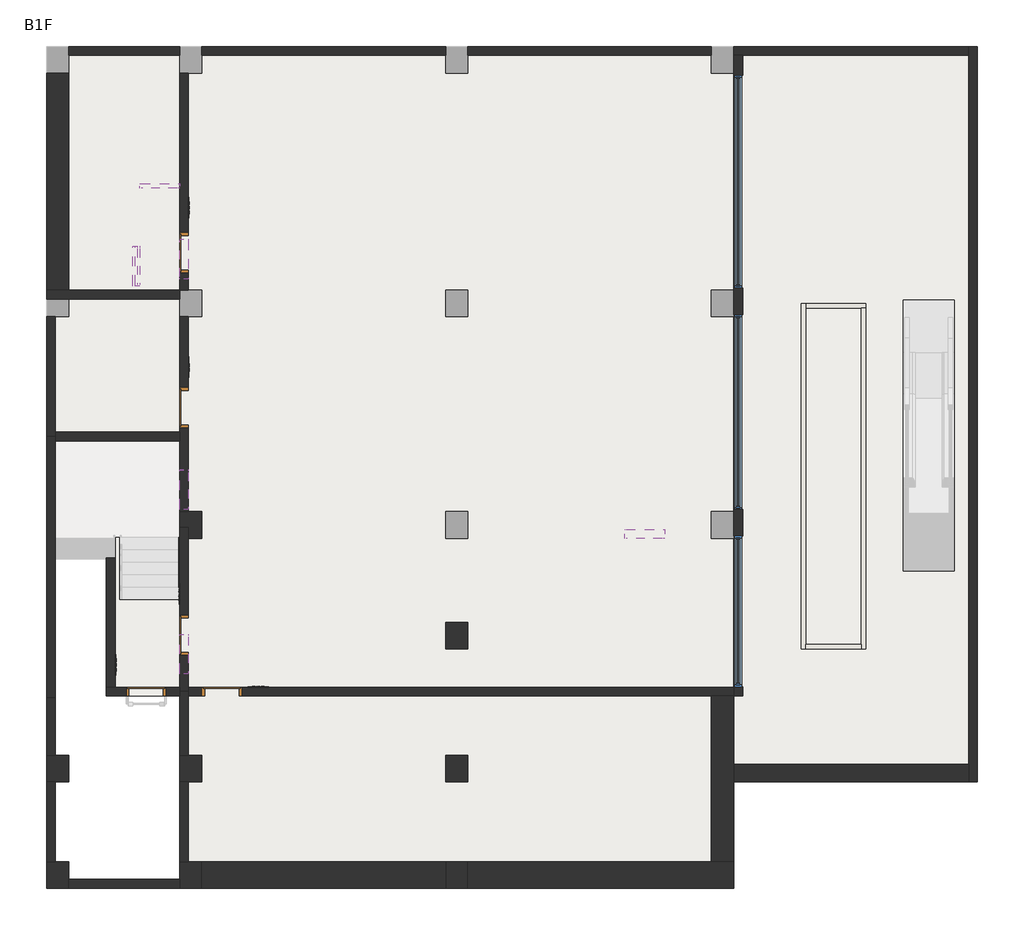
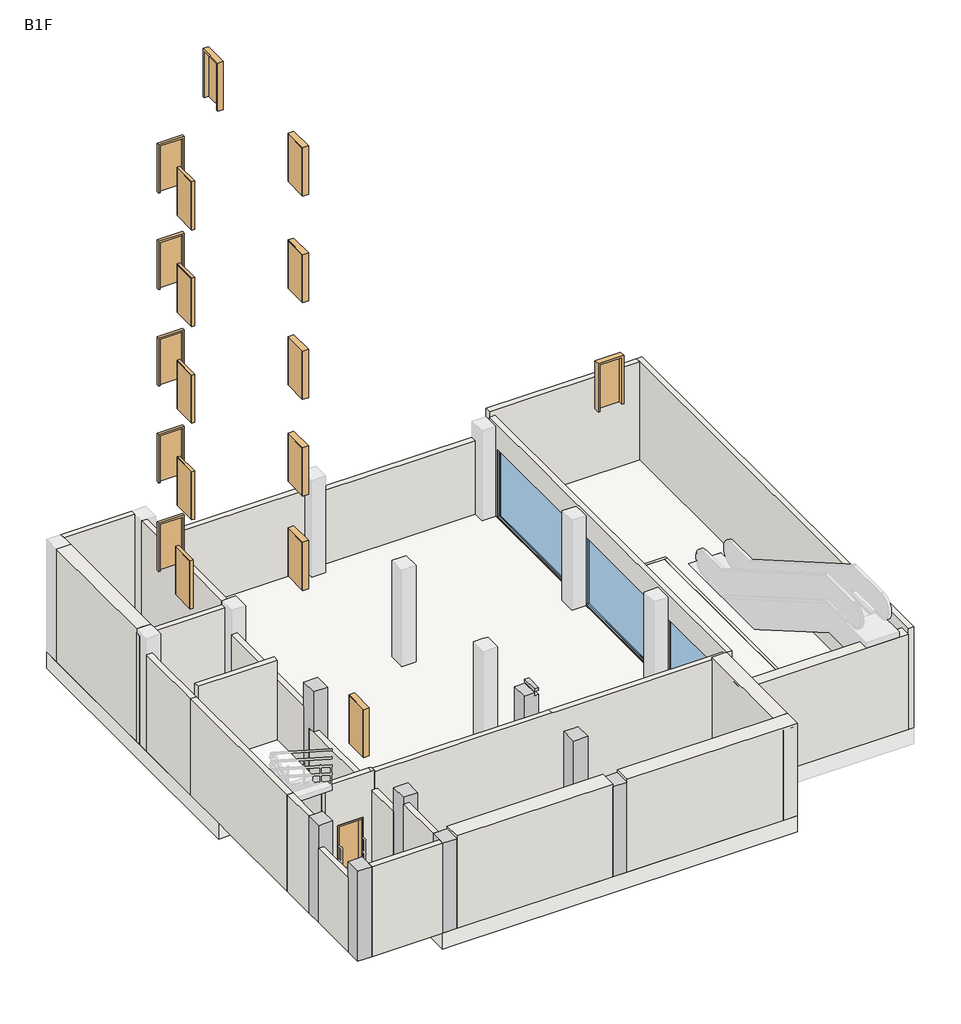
# One storey, part 1 of 2: 36 walls, 23 doors, 9 columns, 5 slabs, 3 windows.
"""IFC4 building model written with IfcOpenShell, lengths in millimetres."""

from ifc_helpers import new_model, si_unit, frame, origin, place, context, project, spatial, polyline, outline, extrude, faceted_brep, transform, mapped, element, save
from components import door_998bb8c2, door_d16c5775, door_dfe2024e, door_f2395513, window_0159f90e, window_ffe5d9b1, window_331565a2

model = new_model("IFC4")

# Units and contexts
model_context = context("Model", 3, world=origin())
ifc_project = project(units=[si_unit("LENGTHUNIT", "METRE", prefix="MILLI")], contexts=[model_context])

# Site, building, storey
site = spatial("IfcSite", under=ifc_project)
building = spatial("IfcBuilding", under=site)
storey = spatial("IfcBuildingStorey", under=building, Name="B1F", Elevation=-3600.0)

# Columns
placement = place(None, origin())
element("IfcColumn", 1, ObjectType="CL100-구조 기둥 : CL100-구조 기둥_500x600", at=placement, inside=storey, context=model_context, shape_type="Brep", body=[
    faceted_brep([(2750.0, -300.0, -3600.0), (2750.0, 300.0, -3600.0), (2950.0, 300.0, -3600.0), (3250.0, 300.0, -3600.0), (3250.0, -300.0, -3600.0), (2950.0, -300.0, -3600.0), (2750.0, -300.0, -950.0), (2750.0, -300.0, -250.0), (2750.0, -300.0, -50.0), (2750.0, -300.0, 0.0), (2750.0, 300.0, 0.0), (2750.0, 300.0, -900.0), (2950.0, 300.0, 0.0), (3250.0, 300.0, 0.0), (3250.0, 300.0, -150.0), (3250.0, -150.0, 0.0), (3250.0, -300.0, 0.0), (3250.0, -300.0, -900.0)], [[[0, 1, 2, 3, 4, 5]], [[1, 0, 6, 7, 8, 9, 10, 11]], [[3, 2, 1, 11, 10, 12, 13, 14]], [[4, 3, 14, 13, 15, 16, 17]], [[0, 5, 4, 17, 16, 9, 8, 7, 6]], [[10, 9, 16, 15, 13, 12]]]),
])
element("IfcColumn", 2, ObjectType="CL100-구조 기둥 : CL100-구조 기둥_500x600", at=placement, inside=storey, context=model_context, shape_type="Brep", body=[
    faceted_brep([(8750.0, -300.0, -3600.0), (8750.0, 300.0, -3600.0), (9250.0, 300.0, -3600.0), (9250.0, -300.0, -3600.0), (8750.0, -300.0, 0.0), (8750.0, -150.0, 0.0), (8750.0, 300.0, 0.0), (8750.0, 300.0, -150.0), (9100.0, 300.0, 0.0), (9250.0, 300.0, 0.0), (9250.0, -300.0, 0.0)], [[[0, 1, 2, 3]], [[1, 0, 4, 5, 6, 7]], [[2, 1, 7, 6, 8, 9]], [[3, 2, 9, 10]], [[0, 3, 10, 4]], [[10, 9, 8, 6, 5, 4]]]),
])
element("IfcColumn", 3, ObjectType="CL100-구조 기둥 : CL100-구조 기둥_500x600", at=placement, inside=storey, context=model_context, shape_type="Brep", body=[
    faceted_brep([(2750.0, 5800.0, -3600.0), (2950.0, 5800.0, -3600.0), (3250.0, 5800.0, -3600.0), (3250.0, 5200.0, -3600.0), (2950.0, 5200.0, -3600.0), (2950.0, 5450.0, -3600.0), (2750.0, 5450.0, -3600.0), (2750.0, 5200.0, 600.0), (2750.0, 5800.0, 600.0), (2750.0, 5800.0, -300.0), (2750.0, 5450.0, -900.0), (2750.0, 5200.0, -900.0), (2750.0, 5200.0, 0.0), (3150.0, 5800.0, 600.0), (3250.0, 5800.0, 600.0), (3250.0, 5800.0, 0.0), (3250.0, 5800.0, -150.0), (3250.0, 5200.0, 600.0), (3250.0, 5200.0, 0.0), (3250.0, 5200.0, -150.0), (2950.0, 5200.0, -900.0), (2950.0, 5450.0, -900.0)], [[[0, 1, 2, 3, 4, 5, 6]], [[7, 8, 9, 0, 6, 10, 11, 12]], [[2, 1, 0, 9, 8, 13, 14, 15, 16]], [[3, 2, 16, 15, 14, 17, 18, 19]], [[17, 7, 12, 11, 20, 4, 3, 19, 18]], [[8, 7, 17, 14, 13]], [[21, 5, 4, 20]], [[10, 21, 20, 11]], [[5, 21, 10, 6]]]),
])
element("IfcColumn", 4, ObjectType="CL100-구조 기둥 : CL100-구조 기둥_500x600", at=placement, inside=storey, context=model_context, shape_type="Brep", body=[
    faceted_brep([(-250.0, -2700.0, -3600.0), (-250.0, -2100.0, -3600.0), (-50.0, -2100.0, -3600.0), (250.0, -2100.0, -3600.0), (250.0, -2500.0, -3600.0), (250.0, -2700.0, -3600.0), (-250.0, -2700.0, -250.0), (-250.0, -2100.0, -250.0), (-250.0, -2100.0, -850.0), (50.0, -2100.0, -250.0), (250.0, -2100.0, -250.0), (250.0, -2500.0, -250.0), (250.0, -2700.0, -250.0)], [[[0, 1, 2, 3, 4, 5]], [[6, 7, 8, 1, 0]], [[7, 9, 10, 3, 2, 1, 8]], [[10, 11, 12, 5, 4, 3]], [[12, 6, 0, 5]], [[6, 12, 11, 10, 9, 7]]]),
])
element("IfcColumn", 5, ObjectType="CL100-구조 기둥 : CL100-구조 기둥_500x600", at=placement, inside=storey, context=model_context, shape_type="Brep", body=[
    faceted_brep([(2750.0, -2700.0, -3600.0), (2750.0, -2500.0, -3600.0), (2750.0, -2100.0, -3600.0), (2950.0, -2100.0, -3600.0), (3250.0, -2100.0, -3600.0), (3250.0, -2700.0, -3600.0), (2750.0, -2700.0, -250.0), (2750.0, -2500.0, -250.0), (2750.0, -2100.0, -250.0), (2950.0, -2100.0, -250.0), (3150.0, -2100.0, -250.0), (3250.0, -2100.0, -250.0), (3250.0, -2700.0, -250.0)], [[[0, 1, 2, 3, 4, 5]], [[6, 7, 8, 2, 1, 0]], [[8, 9, 10, 11, 4, 3, 2]], [[11, 12, 5, 4]], [[12, 6, 0, 5]], [[6, 12, 11, 10, 9, 8, 7]]]),
])
element("IfcColumn", 6, ObjectType="CL100-구조 기둥 : CL100-구조 기둥_500x600", at=placement, inside=storey, context=model_context, shape_type="Brep", body=[
    faceted_brep([(8750.0, -2700.0, -3600.0), (8750.0, -2100.0, -3600.0), (9250.0, -2100.0, -3600.0), (9250.0, -2700.0, -3600.0), (8750.0, -2700.0, -250.0), (8750.0, -2100.0, -250.0), (8850.0, -2100.0, -250.0), (9150.0, -2100.0, -250.0), (9250.0, -2100.0, -250.0), (9250.0, -2700.0, -250.0)], [[[0, 1, 2, 3]], [[4, 5, 1, 0]], [[5, 6, 7, 8, 2, 1]], [[8, 9, 3, 2]], [[9, 4, 0, 3]], [[4, 9, 8, 7, 6, 5]]]),
])
element("IfcColumn", 7, ObjectType="CL100-구조 기둥 : CL100-구조 기둥_500x600", at=placement, inside=storey, context=model_context, shape_type="Brep", body=[
    faceted_brep([(14750.0, -2700.0, -3600.0), (14750.0, -2100.0, -3600.0), (15250.0, -2100.0, -3600.0), (15250.0, -2700.0, -3600.0), (14750.0, -2700.0, -250.0), (14750.0, -2100.0, -250.0), (14850.0, -2100.0, -250.0), (15250.0, -2100.0, -250.0), (15250.0, -2100.0, -850.0), (15250.0, -2700.0, -250.0)], [[[0, 1, 2, 3]], [[4, 5, 1, 0]], [[5, 6, 7, 8, 2, 1]], [[7, 9, 3, 2, 8]], [[9, 4, 0, 3]], [[4, 9, 7, 6, 5]]]),
])
element("IfcColumn", 8, ObjectType="CL100-구조 기둥 : CL100-구조 기둥_500x600", at=placement, inside=storey, context=model_context, shape_type="Brep", body=[
    faceted_brep([(-250.0, -300.0, -3600.0), (-250.0, 300.0, -3600.0), (-50.0, 300.0, -3600.0), (250.0, 300.0, -3600.0), (250.0, -300.0, -3600.0), (-50.0, -300.0, -3600.0), (-250.0, -300.0, -850.0), (-250.0, -300.0, -250.0), (-250.0, -300.0, -100.0), (-250.0, -300.0, 0.0), (-250.0, 300.0, 0.0), (-50.0, 300.0, 0.0), (250.0, 300.0, 0.0), (250.0, 300.0, -50.0), (250.0, 300.0, -200.0), (250.0, -300.0, 0.0), (250.0, -300.0, -100.0), (250.0, -300.0, -250.0)], [[[0, 1, 2, 3, 4, 5]], [[1, 0, 6, 7, 8, 9, 10]], [[3, 2, 1, 10, 11, 12, 13, 14]], [[4, 3, 14, 13, 12, 15, 16, 17]], [[0, 5, 4, 17, 16, 15, 9, 8, 7, 6]], [[10, 9, 15, 12, 11]]]),
])
element("IfcColumn", 9, ObjectType="CL100-구조 기둥 : CL100-구조 기둥_500x600", at=placement, inside=storey, context=model_context, shape_type="Brep", body=[
    faceted_brep([(8750.0, 2700.0, -3600.0), (8750.0, 3300.0, -3600.0), (9250.0, 3300.0, -3600.0), (9250.0, 2700.0, -3600.0), (8750.0, 2700.0, -150.0), (8750.0, 3300.0, -150.0), (9100.0, 3300.0, -250.0), (9100.0, 2700.0, -250.0), (9250.0, 2700.0, -250.0), (9250.0, 3300.0, -250.0), (9100.0, 3300.0, -150.0), (9100.0, 2700.0, -150.0), (9250.0, 3300.0, -900.0), (9250.0, 2700.0, -900.0), (8850.0, 2700.0, -150.0), (8850.0, 3300.0, -150.0)], [[[0, 1, 2, 3]], [[1, 0, 4, 5]], [[6, 7, 8, 9]], [[7, 6, 10, 11]], [[3, 2, 12, 9, 8, 13]], [[5, 4, 14, 11, 10, 15]], [[2, 1, 5, 15, 10, 6, 9, 12]], [[0, 3, 13, 8, 7, 11, 14, 4]]]),
    faceted_brep([(9250.0, 3300.0, -100.0), (9100.0, 3300.0, -100.0), (9100.0, 3300.0, 0.0), (9250.0, 3300.0, 0.0), (9250.0, 2700.0, 0.0), (9250.0, 2700.0, -100.0), (9100.0, 2700.0, -100.0), (9100.0, 2700.0, 0.0)], [[[0, 1, 2, 3]], [[3, 4, 5, 0]], [[6, 5, 4, 7]], [[4, 3, 2, 7]], [[1, 0, 5, 6]], [[2, 1, 6, 7]]]),
])

# Doors
door_shape = door_998bb8c2(model_context)
element("IfcDoor", 10, ObjectType="DR000-문 : DR000-미닫이 문 900x1800", at=placement, inside=storey, context=model_context, shape_type="MappedRepresentation", body=[
    mapped(door_shape, transform((2850.0, 3015.0, -3600.0), x_axis=(0.0, -1.0, 0.0), y_axis=(1.0, 0.0, 0.0), z_axis=(0.0, 0.0, 1.0))),
])
element("IfcDoor", 11, ObjectType="DR000-문 : DR000-미닫이 문 900x1800", at=placement, inside=storey, context=model_context, shape_type="MappedRepresentation", body=[
    mapped(door_shape, transform((2850.0, 8150.0, -3600.0), x_axis=(0.0, -1.0, 0.0), y_axis=(1.0, 0.0, 0.0), z_axis=(0.0, 0.0, 1.0))),
])
element("IfcDoor", 12, ObjectType="DR000-문 : DR000-미닫이 문 900x1800", at=placement, inside=storey, context=model_context, shape_type="MappedRepresentation", body=[
    mapped(door_shape, transform((1995.0, 1740.0, -3600.0), x_axis=(-1.0, 0.0, 0.0), y_axis=(0.0, -1.0, 0.0), z_axis=(0.0, 0.0, 1.0))),
])
element("IfcDoor", 13, ObjectType="DR000-문 : DR000-미닫이 문 900x1800", at=placement, inside=storey, context=model_context, shape_type="MappedRepresentation", body=[
    mapped(door_shape, transform((2850.0, 2585.0, 0.0), x_axis=(0.0, -1.0, 0.0), y_axis=(1.0, 0.0, 0.0), z_axis=(0.0, 0.0, 1.0))),
])
element("IfcDoor", 14, ObjectType="DR000-문 : DR000-미닫이 문 900x1800", at=placement, inside=storey, context=model_context, shape_type="MappedRepresentation", body=[
    mapped(door_shape, transform((2850.0, 6295.0, 3981.0), x_axis=(0.0, -1.0, 0.0), y_axis=(1.0, 0.0, 0.0), z_axis=(0.0, 0.0, 1.0))),
])
element("IfcDoor", 15, ObjectType="DR000-문 : DR000-미닫이 문 900x1800", at=placement, inside=storey, context=model_context, shape_type="MappedRepresentation", body=[
    mapped(door_shape, transform((2850.0, 6295.0, 7500.0), x_axis=(0.0, -1.0, 0.0), y_axis=(1.0, 0.0, 0.0), z_axis=(0.0, 0.0, 1.0))),
])
element("IfcDoor", 16, ObjectType="DR000-문 : DR000-미닫이 문 900x1800", at=placement, inside=storey, context=model_context, shape_type="MappedRepresentation", body=[
    mapped(door_shape, transform((2850.0, 6295.0, 11100.0), x_axis=(0.0, -1.0, 0.0), y_axis=(1.0, 0.0, 0.0), z_axis=(0.0, 0.0, 1.0))),
])
element("IfcDoor", 17, ObjectType="DR000-문 : DR000-미닫이 문 900x1800", at=placement, inside=storey, context=model_context, shape_type="MappedRepresentation", body=[
    mapped(door_shape, transform((2850.0, 6295.0, 14700.0), x_axis=(0.0, -1.0, 0.0), y_axis=(1.0, 0.0, 0.0), z_axis=(0.0, 0.0, 1.0))),
])
element("IfcDoor", 18, ObjectType="DR000-문 : DR000-미닫이 문 900x1800", at=placement, inside=storey, context=model_context, shape_type="MappedRepresentation", body=[
    mapped(door_shape, transform((2850.0, 6295.0, 18680.0), x_axis=(0.0, -1.0, 0.0), y_axis=(1.0, 0.0, 0.0), z_axis=(0.0, 0.0, 1.0))),
])
element("IfcDoor", 19, ObjectType="DR000-문 : DR000-미닫이 문 900x1800", at=placement, inside=storey, context=model_context, shape_type="MappedRepresentation", body=[
    mapped(door_shape, transform((2850.0, 11645.0, -3600.0), x_axis=(0.0, -1.0, 0.0), y_axis=(1.0, 0.0, 0.0), z_axis=(0.0, 0.0, 1.0))),
])
element("IfcDoor", 20, ObjectType="DR000-문 : DR000-미닫이 문 900x1800", at=placement, inside=storey, context=model_context, shape_type="MappedRepresentation", body=[
    mapped(door_shape, transform((13245.0000098, 5300.0, 7500.0), x_axis=(-1.0, 0.0, 0.0), y_axis=(0.0, -1.0, 0.0), z_axis=(0.0, 0.0, 1.0))),
])
door_2_shape = door_d16c5775(model_context)
element("IfcDoor", 21, ObjectType="DR000-문 : DR000-미닫이 문 900x1800", at=placement, inside=storey, context=model_context, shape_type="MappedRepresentation", body=[
    mapped(door_2_shape, transform((1750.0, 11345.0, 600.0), x_axis=(0.0, -1.0, 0.0), y_axis=(1.0, 0.0, 0.0), z_axis=(0.0, 0.0, 1.0))),
])
element("IfcDoor", 22, ObjectType="DR000-문 : DR000-미닫이 문 900x1800", at=placement, inside=storey, context=model_context, shape_type="MappedRepresentation", body=[
    mapped(door_2_shape, transform((1800.0, 11345.0, 3900.0), x_axis=(0.0, -1.0, 0.0), y_axis=(1.0, 0.0, 0.0), z_axis=(0.0, 0.0, 1.0))),
])
element("IfcDoor", 23, ObjectType="DR000-문 : DR000-미닫이 문 900x1800", at=placement, inside=storey, context=model_context, shape_type="MappedRepresentation", body=[
    mapped(door_2_shape, transform((1800.0, 11345.0, 7500.0), x_axis=(0.0, -1.0, 0.0), y_axis=(1.0, 0.0, 0.0), z_axis=(0.0, 0.0, 1.0))),
])
element("IfcDoor", 24, ObjectType="DR000-문 : DR000-미닫이 문 900x1800", at=placement, inside=storey, context=model_context, shape_type="MappedRepresentation", body=[
    mapped(door_2_shape, transform((1800.0, 11345.0, 11100.0), x_axis=(0.0, -1.0, 0.0), y_axis=(1.0, 0.0, 0.0), z_axis=(0.0, 0.0, 1.0))),
])
element("IfcDoor", 25, ObjectType="DR000-문 : DR000-미닫이 문 900x1800", at=placement, inside=storey, context=model_context, shape_type="MappedRepresentation", body=[
    mapped(door_2_shape, transform((1800.0, 11345.0, 14700.0), x_axis=(0.0, -1.0, 0.0), y_axis=(1.0, 0.0, 0.0), z_axis=(0.0, 0.0, 1.0))),
])
door_3_shape = door_dfe2024e(model_context)
element("IfcDoor", 26, ObjectType="DR000-문 : DR000-미닫이 문 900x1800", at=placement, inside=storey, context=model_context, shape_type="MappedRepresentation", body=[
    mapped(door_3_shape, transform((2305.0, 13150.0, 600.0), x_axis=(1.0, 0.0, 0.0), y_axis=(0.0, 1.0, 0.0), z_axis=(0.0, 0.0, 1.0))),
])
element("IfcDoor", 27, ObjectType="DR000-문 : DR000-미닫이 문 900x1800", at=placement, inside=storey, context=model_context, shape_type="MappedRepresentation", body=[
    mapped(door_3_shape, transform((2305.0, 13150.0, 3900.0), x_axis=(1.0, 0.0, 0.0), y_axis=(0.0, 1.0, 0.0), z_axis=(0.0, 0.0, 1.0))),
])
element("IfcDoor", 28, ObjectType="DR000-문 : DR000-미닫이 문 900x1800", at=placement, inside=storey, context=model_context, shape_type="MappedRepresentation", body=[
    mapped(door_3_shape, transform((2305.0, 13150.0, 7500.0), x_axis=(1.0, 0.0, 0.0), y_axis=(0.0, 1.0, 0.0), z_axis=(0.0, 0.0, 1.0))),
])
element("IfcDoor", 29, ObjectType="DR000-문 : DR000-미닫이 문 900x1800", at=placement, inside=storey, context=model_context, shape_type="MappedRepresentation", body=[
    mapped(door_3_shape, transform((2305.0, 13150.0, 11100.0), x_axis=(1.0, 0.0, 0.0), y_axis=(0.0, 1.0, 0.0), z_axis=(0.0, 0.0, 1.0))),
])
element("IfcDoor", 30, ObjectType="DR000-문 : DR000-미닫이 문 900x1800", at=placement, inside=storey, context=model_context, shape_type="MappedRepresentation", body=[
    mapped(door_3_shape, transform((2305.0, 13150.0, 14700.0), x_axis=(1.0, 0.0, 0.0), y_axis=(0.0, 1.0, 0.0), z_axis=(0.0, 0.0, 1.0))),
])
door_4_shape = door_f2395513(model_context)
element("IfcDoor", 31, ObjectType="DR000-문 : DR000-미닫이 문 900x1800", at=placement, inside=storey, context=model_context, shape_type="MappedRepresentation", body=[
    mapped(door_4_shape, transform((2850.0, 11495.0, 18680.0), x_axis=(0.0, -1.0, 0.0), y_axis=(1.0, 0.0, 0.0), z_axis=(0.0, 0.0, 1.0))),
])
element("IfcDoor", 32, ObjectType="DR000-문 : DR000-미닫이 문 900x1800", at=placement, inside=storey, context=model_context, shape_type="MappedRepresentation", body=[
    mapped(door_4_shape, transform((3705.0, 1740.0, -3600.0), x_axis=(1.0, 0.0, 0.0), y_axis=(0.0, 1.0, 0.0), z_axis=(0.0, 0.0, 1.0))),
])

# Slabs
element("IfcSlab", 33, ObjectType="SL100-구조 바닥 150", at=placement, inside=storey, context=model_context, shape_type="SweptSolid", body=[
    extrude(outline(polyline([(1099.7569864, 1640.0), (1099.7569864, 5450.0), (2750.0, 5450.0), (2750.0, 1640.0), (1099.7569864, 1640.0)])), frame((0.0, 0.0, -3750.0), z_axis=(0.0, 0.0, 1.0), x_axis=(1.0, 0.0, 0.0)), (0.0, 0.0, 1.0), 150.0),
])
element("IfcSlab", 34, ObjectType="FT100-구조 기초 600", at=placement, inside=storey, context=model_context, shape_type="Brep", body=[
    faceted_brep([(15250.0, 16300.0, -4200.0), (15250.0, -2700.0, -4200.0), (3100.0, -2700.0, -4200.0), (2750.0, -2700.0, -4200.0), (2750.0, 5450.0, -4200.0), (250.0, 5450.0, -4200.0), (250.0, 5800.0, -4200.0), (-250.0, 5800.0, -4200.0), (-250.0, 16300.0, -4200.0), (15250.0, -2700.0, -3600.0), (15250.0, -2100.0, -3600.0), (15250.0, 15700.0, -3600.0), (15250.0, 16300.0, -3600.0), (14750.0, 16300.0, -3600.0), (9250.0, 16300.0, -3600.0), (8750.0, 16300.0, -3600.0), (3250.0, 16300.0, -3600.0), (2750.0, 16300.0, -3600.0), (250.0, 16300.0, -3600.0), (-250.0, 16300.0, -3600.0), (-250.0, 15700.0, -3600.0), (-250.0, 10800.0, -3600.0), (-250.0, 10600.0, -3600.0), (-250.0, 10200.0, -3600.0), (-250.0, 7500.0, -3600.0), (-250.0, 5800.0, -3600.0), (250.0, 5800.0, -3600.0), (250.0, 5450.0, -3600.0), (1099.7569864, 5450.0, -3600.0), (2750.0, 5450.0, -3600.0), (2750.0, 1640.0, -3600.0), (2750.0, -2100.0, -3600.0), (2750.0, -2500.0, -3600.0), (2750.0, -2700.0, -3600.0), (3250.0, -2700.0, -3600.0), (8750.0, -2700.0, -3600.0), (9250.0, -2700.0, -3600.0), (14750.0, -2700.0, -3600.0), (15250.0, 16300.0, -3700.0), (2750.0, 5450.0, -3750.0)], [[[0, 1, 2, 3, 4, 5, 6, 7, 8]], [[9, 10, 11, 12, 13, 14, 15, 16, 17, 18, 19, 20, 21, 22, 23, 24, 25, 26, 27, 28, 29, 30, 31, 32, 33, 34, 35, 36, 37]], [[1, 0, 38, 12, 11, 10, 9]], [[3, 2, 1, 9, 37, 36, 35, 34, 33]], [[4, 3, 33, 32, 31, 30, 29, 39]], [[5, 4, 39, 29, 28, 27]], [[8, 7, 25, 24, 23, 22, 21, 20, 19]], [[0, 8, 19, 18, 17, 16, 15, 14, 13, 12, 38]], [[6, 5, 27, 26]], [[7, 6, 26, 25]]]),
])
element("IfcSlab", 35, ObjectType="SL500-시멘트모르타르 미장 바닥 100", at=placement, inside=storey, context=model_context, shape_type="SweptSolid", body=[
    extrude(outline(polyline([(20550.0, 16100.0), (20550.0, -100.0), (15250.0, -100.0), (15250.0, 16100.0), (20550.0, 16100.0)]), holes=[polyline([(20225.0, 10581.9854476), (19075.0, 10581.9854476), (19075.0, 6540.0), (20225.0, 6540.0), (20225.0, 10581.9854476)])]), frame((0.0, 0.0, -3700.0), z_axis=(0.0, 0.0, 1.0), x_axis=(1.0, 0.0, 0.0)), (0.0, 0.0, 1.0), 100.0),
])
element("IfcSlab", 36, ObjectType="SL100-구조 바닥 150", at=placement, inside=storey, context=model_context, shape_type="SweptSolid", body=[
    extrude(outline(polyline([(20550.0, 10581.9854476), (20550.0, 4056.9854476), (17925.0, 4056.9854476), (17925.0, 10581.9854476), (19075.0, 10581.9854476), (19075.0, 6540.0), (20225.0, 6540.0), (20225.0, 10581.9854476), (20550.0, 10581.9854476)])), frame((0.0, 0.0, -3850.0), z_axis=(0.0, 0.0, 1.0), x_axis=(1.0, 0.0, 0.0)), (0.0, 0.0, 1.0), 150.0),
])
element("IfcSlab", 37, ObjectType="A_수목식재_T755_선큰", at=placement, inside=storey, context=model_context, shape_type="SweptSolid", body=[
    extrude(outline(polyline([(18125.3875888, 2800.0), (16875.3875888, 2800.0), (16875.3875888, 10400.0), (18125.3875888, 10400.0), (18125.3875888, 2800.0)])), frame((0.0, 0.0, -3750.0), z_axis=(0.0, 0.0, 1.0), x_axis=(1.0, 0.0, 0.0)), (0.0, 0.0, 1.0), 755.0),
])

# Walls
element("IfcWall", 38, ObjectType="WA100-구조 벽 200", at=placement, inside=storey, context=model_context, shape_type="Brep", body=[
    faceted_brep([(250.0, 16100.0, -3600.0), (2750.0, 16100.0, -3600.0), (2750.0, 16100.0, 450.0), (2750.0, 16100.0, 600.0), (250.0, 16100.0, 600.0), (250.0, 16100.0, 450.0), (250.0, 16300.0, -3600.0), (250.0, 16300.0, 600.0), (2750.0, 16300.0, 600.0), (2750.0, 16300.0, -3600.0)], [[[0, 1, 2, 3, 4, 5]], [[6, 7, 8, 9]], [[1, 0, 6, 9]], [[4, 3, 8, 7]], [[0, 5, 4, 7, 6]], [[3, 2, 1, 9, 8]]]),
])
element("IfcWall", 39, ObjectType="WA100-구조 벽 200", at=placement, inside=storey, context=model_context, shape_type="SweptSolid", body=[
    extrude(outline(polyline([(-50.0, -2100.0), (-250.0, -2100.0), (-250.0, -300.0), (-50.0, -300.0), (-50.0, -2100.0)])), frame((0.0, 0.0, -3600.0), z_axis=(0.0, 0.0, 1.0), x_axis=(1.0, 0.0, 0.0)), (0.0, 0.0, 1.0), 2750.0),
])
element("IfcWall", 40, ObjectType="WA100-구조 벽 200", at=placement, inside=storey, context=model_context, shape_type="Brep", body=[
    faceted_brep([(-50.0, 7400.0, -3600.0), (2750.0, 7400.0, -3600.0), (2750.0, 7400.0, 450.0), (-50.0, 7400.0, 450.0), (-50.0, 7600.0, -3600.0), (-50.0, 7600.0, 450.0), (1650.0, 7600.0, 450.0), (2750.0, 7600.0, 450.0), (2750.0, 7600.0, -3600.0), (-50.0, 7500.0, -3600.0)], [[[0, 1, 2, 3]], [[4, 5, 6, 7, 8]], [[1, 0, 9, 4, 8]], [[3, 2, 7, 6, 5]], [[0, 3, 5, 4, 9]], [[2, 1, 8, 7]]]),
])
element("IfcWall", 41, ObjectType="WA100-구조 벽 200", at=placement, inside=storey, context=model_context, shape_type="Brep", body=[
    faceted_brep([(-250.0, 10600.0, -3600.0), (250.0, 10600.0, -3600.0), (2750.0, 10600.0, -3600.0), (2750.0, 10600.0, 450.0), (1650.0, 10600.0, 450.0), (250.0, 10600.0, 450.0), (-50.0, 10600.0, 450.0), (-250.0, 10600.0, 450.0), (-250.0, 10800.0, -3600.0), (-250.0, 10800.0, 450.0), (-50.0, 10800.0, 450.0), (250.0, 10800.0, 450.0), (2750.0, 10800.0, 450.0), (2750.0, 10800.0, -3600.0), (250.0, 10800.0, -3600.0)], [[[0, 1, 2, 3, 4, 5, 6, 7]], [[8, 9, 10, 11, 12, 13, 14]], [[2, 1, 0, 8, 14, 13]], [[3, 2, 13, 12]], [[7, 6, 10, 9]], [[0, 7, 9, 8]], [[6, 5, 4, 3, 12, 11, 10]]]),
])
element("IfcWall", 42, ObjectType="WA100-구조 벽 200", at=placement, inside=storey, context=model_context, shape_type="Brep", body=[
    faceted_brep([(2950.0, -2100.0, -3600.0), (2950.0, -300.0, -3600.0), (2950.0, -300.0, -850.0), (2950.0, -300.0, -250.0), (2950.0, -2100.0, -250.0), (2950.0, -2100.0, -850.0), (2750.0, -2100.0, -3600.0), (2750.0, -2100.0, -250.0), (2750.0, -300.0, -250.0), (2750.0, -300.0, -3600.0)], [[[0, 1, 2, 3, 4, 5]], [[6, 7, 8, 9]], [[1, 0, 6, 9]], [[3, 2, 1, 9, 8]], [[0, 5, 4, 7, 6]], [[4, 3, 8, 7]]]),
])
element("IfcWall", 43, ObjectType="WA100-구조 벽 200", at=placement, inside=storey, context=model_context, shape_type="Brep", body=[
    faceted_brep([(1099.7569864, 1640.0, -200.0), (1099.7569864, 1640.0, -3600.0), (1545.0, 1640.0, -3600.0), (1545.0, 1640.0, -1800.0), (2445.0, 1640.0, -1800.0), (2445.0, 1640.0, -3600.0), (2750.0, 1640.0, -3600.0), (2750.0, 1640.0, -900.0), (2850.0, 1640.0, -900.0), (2850.0, 1640.0, -250.0), (2850.0, 1640.0, -200.0), (2750.0, 1640.0, -200.0), (1299.7569864, 1640.0, -200.0), (1099.7569864, 1840.0, -3600.0), (1099.7569864, 1840.0, -200.0), (1299.7569864, 1840.0, -200.0), (1400.2430136, 1840.0, -200.0), (2750.0, 1840.0, -200.0), (2850.0, 1840.0, -200.0), (2850.0, 1840.0, -250.0), (2850.0, 1840.0, -900.0), (2750.0, 1840.0, -900.0), (2750.0, 1840.0, -3600.0), (2445.0, 1840.0, -3600.0), (2445.0, 1840.0, -1800.0), (1545.0, 1840.0, -1800.0), (1545.0, 1840.0, -3600.0), (2750.0, 1740.0, -3600.0), (2750.0, 1740.0, -900.0)], [[[0, 1, 2, 3, 4, 5, 6, 7, 8, 9, 10, 11, 12]], [[13, 14, 15, 16, 17, 18, 19, 20, 21, 22, 23, 24, 25, 26]], [[1, 13, 26, 2]], [[22, 27, 6, 5, 23]], [[1, 0, 14, 13]], [[14, 0, 12, 15]], [[25, 3, 2, 26]], [[3, 25, 24, 4]], [[4, 24, 23, 5]], [[18, 10, 9, 8, 20, 19]], [[20, 8, 7, 28, 21]], [[7, 6, 27, 22, 21, 28]], [[10, 18, 17, 11]], [[15, 12, 11, 17, 16]]]),
])
element("IfcWall", 44, ObjectType="WA100-구조 벽 200", at=placement, inside=storey, context=model_context, shape_type="SweptSolid", body=[
    extrude(outline(polyline([(10800.0, -3600.0), (10800.0, 600.0), (15700.0, 600.0), (15700.0, -3600.0), (12095.0, -3600.0), (12095.0, -1800.0), (11195.0, -1800.0), (11195.0, -3600.0), (10800.0, -3600.0)])), frame((2750.0, 0.0, 0.0), z_axis=(1.0, 0.0, 0.0), x_axis=(0.0, 1.0, 0.0)), (0.0, 0.0, 1.0), 200.0),
])
element("IfcWall", 45, ObjectType="WA100-구조 벽 200", at=placement, inside=storey, context=model_context, shape_type="SweptSolid", body=[
    extrude(outline(polyline([(1840.0, -3600.0), (1840.0, -429.0483521), (5141.5174352, -2663.1578947), (5450.0, -2663.1578947), (5450.0, -3600.0), (1840.0, -3600.0)])), frame((1099.7569864, 0.0, 0.0), z_axis=(1.0, 0.0, 0.0), x_axis=(0.0, 1.0, 0.0)), (0.0, 0.0, 1.0), 200.0),
])
element("IfcWall", 46, ObjectType="WA100-구조 벽 200", at=placement, inside=storey, context=model_context, shape_type="Brep", body=[
    faceted_brep([(-50.0, 5450.0, -3600.0), (1099.7569864, 5450.0, -3600.0), (1299.7569864, 5450.0, -3600.0), (2950.0, 5450.0, -3600.0), (2950.0, 5450.0, -2663.1578947), (1299.7569864, 5450.0, -2663.1578947), (1099.7569864, 5450.0, -2663.1578947), (-50.0, 5450.0, -2663.1578947), (-50.0, 5650.0, -3600.0), (-50.0, 5650.0, -2663.1578947), (2950.0, 5650.0, -2663.1578947), (2950.0, 5650.0, -3600.0)], [[[0, 1, 2, 3, 4, 5, 6, 7]], [[8, 9, 10, 11]], [[3, 2, 1, 0, 8, 11]], [[7, 6, 5, 4, 10, 9]], [[4, 3, 11, 10]], [[0, 7, 9, 8]]]),
])
element("IfcWall", 47, ObjectType="WA100-구조 벽 200", at=placement, inside=storey, context=model_context, shape_type="Brep", body=[
    faceted_brep([(20550.0, 16300.0, -3700.0), (20550.0, 16100.0, -3700.0), (20550.0, 10581.9854476, -3700.0), (20550.0, 4056.9854476, -3700.0), (20550.0, -300.0, -3700.0), (20550.0, -300.0, 50.0), (20550.0, 16100.0, 50.0), (20550.0, 16300.0, 50.0), (20750.0, 16300.0, -3700.0), (20750.0, 16300.0, 50.0), (20750.0, -300.0, 50.0), (20750.0, -300.0, -3700.0), (20750.0, 4056.9854476, -3700.0), (20750.0, 10581.9854476, -3700.0)], [[[0, 1, 2, 3, 4, 5, 6, 7]], [[8, 9, 10, 11, 12, 13]], [[0, 7, 9, 8]], [[4, 3, 2, 1, 0, 8, 13, 12, 11]], [[7, 6, 5, 10, 9]], [[5, 4, 11, 10]]]),
])
element("IfcWall", 48, ObjectType="WA100-구조 벽 200", at=placement, inside=storey, context=model_context, shape_type="Brep", body=[
    faceted_brep([(15250.0, 16100.0, -3700.0), (20550.0, 16100.0, -3700.0), (20550.0, 16100.0, 50.0), (15250.0, 16100.0, 50.0), (15250.0, 16300.0, -3700.0), (15250.0, 16300.0, -3600.0), (15250.0, 16300.0, -250.0), (15250.0, 16300.0, -100.0), (15250.0, 16300.0, 50.0), (20550.0, 16300.0, 50.0), (20550.0, 16300.0, -3700.0)], [[[0, 1, 2, 3]], [[4, 5, 6, 7, 8, 9, 10]], [[1, 0, 4, 10]], [[3, 2, 9, 8]], [[2, 1, 10, 9]], [[0, 3, 8, 7, 6, 5, 4]]]),
])
element("IfcWall", 49, ObjectType="WA100-구조 벽 200", at=placement, inside=storey, context=model_context, shape_type="Brep", body=[
    faceted_brep([(2950.0, 300.0, -3600.0), (2950.0, 1640.0, -3600.0), (2950.0, 1740.0, -3600.0), (2950.0, 1740.0, -900.0), (2950.0, 1640.0, -900.0), (2950.0, 300.0, -900.0), (2750.0, 300.0, -3600.0), (2750.0, 300.0, -900.0), (2750.0, 1640.0, -900.0), (2750.0, 1740.0, -900.0), (2750.0, 1740.0, -3600.0), (2750.0, 1640.0, -3600.0)], [[[0, 1, 2, 3, 4, 5]], [[6, 7, 8, 9, 10, 11]], [[2, 1, 0, 6, 11, 10]], [[3, 2, 10, 9]], [[5, 4, 3, 9, 8, 7]], [[0, 5, 7, 6]]]),
])
element("IfcWall", 50, ObjectType="WA100-구조 벽 200", at=placement, inside=storey, context=model_context, shape_type="SweptSolid", body=[
    extrude(outline(polyline([(-50.0, 1600.0), (-50.0, 300.0), (-250.0, 300.0), (-250.0, 1600.0), (-50.0, 1600.0)])), frame((0.0, 0.0, -3600.0), z_axis=(0.0, 0.0, 1.0), x_axis=(1.0, 0.0, 0.0)), (0.0, 0.0, 1.0), 3600.0),
])
element("IfcWall", 51, ObjectType="WA100-구조 벽 200", at=placement, inside=storey, context=model_context, shape_type="SweptSolid", body=[
    extrude(outline(polyline([(14750.0, 16100.0), (9250.0, 16100.0), (9250.0, 16300.0), (14750.0, 16300.0), (14750.0, 16100.0)])), frame((0.0, 0.0, -3600.0), z_axis=(0.0, 0.0, 1.0), x_axis=(1.0, 0.0, 0.0)), (0.0, 0.0, 1.0), 2750.0),
])
element("IfcWall", 52, ObjectType="WA100-구조 벽 200", at=placement, inside=storey, context=model_context, shape_type="SweptSolid", body=[
    extrude(outline(polyline([(8750.0, 16100.0), (3250.0, 16100.0), (3250.0, 16300.0), (8750.0, 16300.0), (8750.0, 16100.0)])), frame((0.0, 0.0, -3600.0), z_axis=(0.0, 0.0, 1.0), x_axis=(1.0, 0.0, 0.0)), (0.0, 0.0, 1.0), 3000.0),
])
element("IfcWall", 53, ObjectType="WA100-구조 벽 200", at=placement, inside=storey, context=model_context, shape_type="Brep", body=[
    faceted_brep([(2850.0, 1840.0, -250.0), (3150.0, 1840.0, -250.0), (5663.2625647, 1840.0, -250.0), (5963.2625647, 1840.0, -250.0), (8850.0, 1840.0, -250.0), (9100.0, 1840.0, -250.0), (9250.0, 1840.0, -250.0), (14850.0, 1840.0, -250.0), (15250.0, 1840.0, -250.0), (15250.0, 1840.0, -850.0), (15250.0, 1840.0, -1050.0), (15250.0, 1840.0, -3600.0), (4155.0, 1840.0, -3600.0), (4155.0, 1840.0, -1800.0), (3255.0, 1840.0, -1800.0), (3255.0, 1840.0, -3600.0), (2950.0, 1840.0, -3600.0), (2950.0, 1840.0, -900.0), (2850.0, 1840.0, -900.0), (9100.0, 1640.0, -250.0), (8850.0, 1640.0, -250.0), (5963.2625647, 1640.0, -250.0), (5663.2625647, 1640.0, -250.0), (3150.0, 1640.0, -250.0), (2850.0, 1640.0, -250.0), (2850.0, 1640.0, -900.0), (2950.0, 1640.0, -900.0), (2950.0, 1640.0, -3600.0), (3255.0, 1640.0, -3600.0), (3255.0, 1640.0, -1800.0), (4155.0, 1640.0, -1800.0), (4155.0, 1640.0, -3600.0), (15250.0, 1640.0, -3600.0), (15250.0, 1640.0, -850.0), (15250.0, 1640.0, -250.0), (14850.0, 1640.0, -250.0), (9250.0, 1640.0, -250.0), (2950.0, 1740.0, -3600.0), (2950.0, 1740.0, -900.0)], [[[0, 1, 2, 3, 4, 5, 6, 7, 8, 9, 10, 11, 12, 13, 14, 15, 16, 17, 18]], [[19, 20, 21, 22, 23, 24, 25, 26, 27, 28, 29, 30, 31, 32, 33, 34, 35, 36]], [[27, 37, 16, 15, 28]], [[11, 32, 31, 12]], [[0, 24, 23, 22, 21, 20, 19, 5, 4, 3, 2, 1]], [[8, 7, 6, 5, 19, 36, 35, 34]], [[24, 0, 18, 25]], [[25, 18, 17, 38, 26]], [[16, 37, 27, 26, 38, 17]], [[30, 13, 12, 31]], [[13, 30, 29, 14]], [[14, 29, 28, 15]], [[11, 10, 9, 8, 34, 33, 32]]]),
])
element("IfcWall", 54, ObjectType="WA100-구조 벽 200", at=placement, inside=storey, context=model_context, shape_type="SweptSolid", body=[
    extrude(outline(polyline([(250.0, -2500.0), (2750.0, -2500.0), (2750.0, -2700.0), (250.0, -2700.0), (250.0, -2500.0)])), frame((0.0, 0.0, -3600.0), z_axis=(0.0, 0.0, 1.0), x_axis=(1.0, 0.0, 0.0)), (0.0, 0.0, 1.0), 3350.0),
])
element("IfcWall", 55, ObjectType="WA100-구조 벽 500", at=placement, inside=storey, context=model_context, shape_type="Brep", body=[
    faceted_brep([(250.0, 10800.0, -3600.0), (250.0, 15700.0, -3600.0), (250.0, 15700.0, 600.0), (250.0, 10800.0, 600.0), (250.0, 10800.0, 450.0), (-250.0, 10800.0, -3600.0), (-250.0, 10800.0, 450.0), (-250.0, 10800.0, 600.0), (-250.0, 13150.0, 600.0), (-250.0, 15700.0, 600.0), (-250.0, 15700.0, -3600.0), (-50.0, 15700.0, 600.0), (-50.0, 10800.0, 600.0)], [[[0, 1, 2, 3, 4]], [[5, 6, 7, 8, 9, 10]], [[1, 0, 5, 10]], [[2, 1, 10, 9, 11]], [[3, 2, 11, 9, 8, 7, 12]], [[0, 4, 3, 12, 7, 6, 5]]]),
])
element("IfcWall", 56, ObjectType="WA100-구조 벽 200", at=placement, inside=storey, context=model_context, shape_type="SweptSolid", body=[
    extrude(outline(polyline([(16100.0, -3600.0), (15650.0, -3600.0), (15650.0, -1050.0), (10850.0, -1050.0), (10850.0, -3600.0), (10250.0, -3600.0), (10250.0, -1050.0), (5850.0, -1050.0), (5850.0, -3600.0), (5250.0, -3600.0), (5250.0, -1050.0), (1850.0, -1050.0), (1850.0, -3600.0), (1640.0, -3600.0), (1640.0, -150.0), (16100.0, -150.0), (16100.0, -3600.0)])), frame((15250.0, 0.0, 0.0), z_axis=(1.0, 0.0, 0.0), x_axis=(0.0, 1.0, 0.0)), (0.0, 0.0, 1.0), 200.0),
])
element("IfcWall", 57, ObjectType="A_플랜트박스_T100_선큰", at=placement, inside=storey, context=model_context, shape_type="Brep", body=[
    faceted_brep([(16775.3875888, 10500.0, -3600.0), (16775.3875888, 2700.0, -3600.0), (16775.3875888, 2700.0, -2995.0), (16775.3875888, 10500.0, -2995.0), (16875.3875888, 10500.0, -3600.0), (16875.3875888, 10500.0, -2995.0), (16875.3875888, 10400.0, -2995.0), (16875.3875888, 2800.0, -2995.0), (16875.3875888, 2700.0, -2995.0), (16875.3875888, 2700.0, -3600.0), (16875.3875888, 2800.0, -3600.0), (16875.3875888, 10400.0, -3600.0)], [[[0, 1, 2, 3]], [[4, 5, 6, 7, 8, 9, 10, 11]], [[1, 0, 4, 11, 10, 9]], [[3, 2, 8, 7, 6, 5]], [[0, 3, 5, 4]], [[2, 1, 9, 8]]]),
])
element("IfcWall", 58, ObjectType="A_조적_T100", at=placement, inside=storey, context=model_context, shape_type="Brep", body=[
    faceted_brep([(18225.3875888, 10500.0, -3600.0), (16875.3875888, 10500.0, -3600.0), (16875.3875888, 10500.0, -2995.0), (18225.3875888, 10500.0, -2995.0), (18225.3875888, 10400.0, -3600.0), (18225.3875888, 10400.0, -2995.0), (18125.3875888, 10400.0, -2995.0), (16875.3875888, 10400.0, -2995.0), (16875.3875888, 10400.0, -3600.0), (18125.3875888, 10400.0, -3600.0)], [[[0, 1, 2, 3]], [[4, 5, 6, 7, 8, 9]], [[1, 0, 4, 9, 8]], [[3, 2, 7, 6, 5]], [[2, 1, 8, 7]], [[0, 3, 5, 4]]]),
])
element("IfcWall", 59, ObjectType="A_조적_T100", at=placement, inside=storey, context=model_context, shape_type="Brep", body=[
    faceted_brep([(18225.3875888, 2700.0, -3600.0), (18225.3875888, 10400.0, -3600.0), (18225.3875888, 10400.0, -2995.0), (18225.3875888, 2700.0, -2995.0), (18125.3875888, 2700.0, -3600.0), (18125.3875888, 2700.0, -2995.0), (18125.3875888, 2800.0, -2995.0), (18125.3875888, 10400.0, -2995.0), (18125.3875888, 10400.0, -3600.0), (18125.3875888, 2800.0, -3600.0)], [[[0, 1, 2, 3]], [[4, 5, 6, 7, 8, 9]], [[1, 0, 4, 9, 8]], [[3, 2, 7, 6, 5]], [[2, 1, 8, 7]], [[0, 3, 5, 4]]]),
])
element("IfcWall", 60, ObjectType="A_조적_T100", at=placement, inside=storey, context=model_context, shape_type="SweptSolid", body=[
    extrude(outline(polyline([(18125.3875888, 2700.0), (16875.3875888, 2700.0), (16875.3875888, 2800.0), (18125.3875888, 2800.0), (18125.3875888, 2700.0)])), frame((0.0, 0.0, -3600.0), z_axis=(0.0, 0.0, 1.0), x_axis=(1.0, 0.0, 0.0)), (0.0, 0.0, 1.0), 605.0),
])
element("IfcWall", 61, ObjectType="A-두겁석-T10", at=placement, inside=storey, context=model_context, shape_type="SweptSolid", body=[
    extrude(outline(polyline([(2750.0, 4181.9854476), (2750.0, 3706.9854476), (2740.0, 3706.9854476), (2740.0, 4181.9854476), (2750.0, 4181.9854476)])), frame((0.0, 0.0, -2500.0), z_axis=(0.0, 0.0, 1.0), x_axis=(1.0, 0.0, 0.0)), (0.0, 0.0, 1.0), 170.0),
])
element("IfcWall", 62, ObjectType="A-두겁석-T10", at=placement, inside=storey, context=model_context, shape_type="SweptSolid", body=[
    extrude(outline(polyline([(2960.0, 9298.662668), (2960.0, 8823.662668), (2950.0, 8823.662668), (2950.0, 9298.662668), (2960.0, 9298.662668)])), frame((0.0, 0.0, -2500.0), z_axis=(0.0, 0.0, 1.0), x_axis=(1.0, 0.0, 0.0)), (0.0, 0.0, 1.0), 170.0),
])
element("IfcWall", 63, ObjectType="A-두겁석-T10", at=placement, inside=storey, context=model_context, shape_type="SweptSolid", body=[
    extrude(outline(polyline([(2960.0, 12898.662668), (2960.0, 12423.662668), (2950.0, 12423.662668), (2950.0, 12898.662668), (2960.0, 12898.662668)])), frame((0.0, 0.0, -2500.0), z_axis=(0.0, 0.0, 1.0), x_axis=(1.0, 0.0, 0.0)), (0.0, 0.0, 1.0), 170.0),
])
element("IfcWall", 64, ObjectType="A-두겁석-T10", at=placement, inside=storey, context=model_context, shape_type="SweptSolid", body=[
    extrude(outline(polyline([(4290.2957795, 1850.0), (4765.2957795, 1850.0), (4765.2957795, 1840.0), (4290.2957795, 1840.0), (4290.2957795, 1850.0)])), frame((0.0, 0.0, -2500.0), z_axis=(0.0, 0.0, 1.0), x_axis=(1.0, 0.0, 0.0)), (0.0, 0.0, 1.0), 170.0),
])
element("IfcWall", 65, ObjectType="A-두겁석-T10", at=placement, inside=storey, context=model_context, shape_type="SweptSolid", body=[
    extrude(outline(polyline([(1309.7569864, 2582.0011376), (1309.7569864, 2107.0011376), (1299.7569864, 2107.0011376), (1299.7569864, 2582.0011376), (1309.7569864, 2582.0011376)])), frame((0.0, 0.0, -2500.0), z_axis=(0.0, 0.0, 1.0), x_axis=(1.0, 0.0, 0.0)), (0.0, 0.0, 1.0), 170.0),
])
element("IfcWall", 66, ObjectType="WA100-구조 벽 200", at=placement, inside=storey, context=model_context, shape_type="Brep", body=[
    faceted_brep([(-50.0, 7500.0, -3600.0), (-50.0, 7600.0, -3600.0), (-50.0, 10200.0, -3600.0), (-50.0, 10200.0, 0.0), (-50.0, 9600.0, 0.0), (-50.0, 7500.0, 0.0), (-250.0, 7500.0, -3600.0), (-250.0, 7500.0, 0.0), (-250.0, 9600.0, 0.0), (-250.0, 10200.0, 0.0), (-250.0, 10200.0, -3600.0)], [[[0, 1, 2, 3, 4, 5]], [[6, 7, 8, 9, 10]], [[2, 1, 0, 6, 10]], [[3, 2, 10, 9]], [[5, 4, 3, 9, 8, 7]], [[0, 5, 7, 6]]]),
])
element("IfcWall", 67, ObjectType="WA100-구조 벽 200", at=placement, inside=storey, context=model_context, shape_type="Brep", body=[
    faceted_brep([(2950.0, 10200.0, -3600.0), (2950.0, 10200.0, -300.0), (2950.0, 5800.0, -300.0), (2950.0, 5800.0, -3600.0), (2950.0, 7700.0, -3600.0), (2950.0, 7700.0, -1800.0), (2950.0, 8600.0, -1800.0), (2950.0, 8600.0, -3600.0), (2750.0, 10200.0, -300.0), (2750.0, 10200.0, -3600.0), (2750.0, 8600.0, -3600.0), (2750.0, 8600.0, -1800.0), (2750.0, 7700.0, -1800.0), (2750.0, 7700.0, -3600.0), (2750.0, 7600.0, -3600.0), (2750.0, 7400.0, -3600.0), (2750.0, 5800.0, -3600.0), (2750.0, 5800.0, -300.0)], [[[0, 1, 2, 3, 4, 5, 6, 7]], [[8, 9, 10, 11, 12, 13, 14, 15, 16, 17]], [[9, 0, 7, 10]], [[3, 16, 15, 14, 13, 4]], [[1, 0, 9, 8]], [[2, 1, 8, 17]], [[3, 2, 17, 16]], [[12, 5, 4, 13]], [[5, 12, 11, 6]], [[6, 11, 10, 7]]]),
])
element("IfcWall", 68, ObjectType="WA100-구조 벽 200", at=placement, inside=storey, context=model_context, shape_type="Brep", body=[
    faceted_brep([(-50.0, 1600.0, -3600.0), (-50.0, 5200.0, -3600.0), (-50.0, 7400.0, -3600.0), (-50.0, 7500.0, -3600.0), (-50.0, 7500.0, 0.0), (-50.0, 1600.0, 0.0), (-250.0, 1600.0, -3600.0), (-250.0, 1600.0, 0.0), (-250.0, 7500.0, 0.0), (-250.0, 7500.0, -3600.0), (-250.0, 5800.0, -3600.0), (-250.0, 5200.0, -3600.0)], [[[0, 1, 2, 3, 4, 5]], [[6, 7, 8, 9, 10, 11]], [[3, 2, 1, 0, 6, 11, 10, 9]], [[4, 3, 9, 8]], [[5, 4, 8, 7]], [[0, 5, 7, 6]]]),
])
element("IfcWall", 69, ObjectType="WA100-구조 벽 200", at=placement, inside=storey, context=model_context, shape_type="Brep", body=[
    faceted_brep([(2950.0, 5450.0, -900.0), (2950.0, 5200.0, -900.0), (2950.0, 1840.0, -900.0), (2950.0, 1740.0, -900.0), (2950.0, 1740.0, -3600.0), (2950.0, 1840.0, -3600.0), (2950.0, 2565.0, -3600.0), (2950.0, 2565.0, -1800.0), (2950.0, 3465.0, -1800.0), (2950.0, 3465.0, -3600.0), (2950.0, 5200.0, -3600.0), (2950.0, 5450.0, -3600.0), (2750.0, 1740.0, -900.0), (2750.0, 1840.0, -900.0), (2750.0, 5200.0, -900.0), (2750.0, 5450.0, -900.0), (2750.0, 5450.0, -3600.0), (2750.0, 3465.0, -3600.0), (2750.0, 3465.0, -1800.0), (2750.0, 2565.0, -1800.0), (2750.0, 2565.0, -3600.0), (2750.0, 1840.0, -3600.0), (2750.0, 1740.0, -3600.0)], [[[0, 1, 2, 3, 4, 5, 6, 7, 8, 9, 10, 11]], [[12, 13, 14, 15, 16, 17, 18, 19, 20, 21, 22]], [[4, 22, 21, 20, 6, 5]], [[16, 11, 10, 9, 17]], [[3, 2, 1, 0, 15, 14, 13, 12]], [[4, 3, 12, 22]], [[11, 16, 15, 0]], [[19, 7, 6, 20]], [[7, 19, 18, 8]], [[8, 18, 17, 9]]]),
])
element("IfcWall", 70, ObjectType="WA100-구조 벽 600", at=placement, inside=storey, context=model_context, shape_type="SweptSolid", body=[
    extrude(outline(polyline([(8750.0, -2700.0), (3250.0, -2700.0), (3250.0, -2100.0), (8750.0, -2100.0), (8750.0, -2700.0)])), frame((0.0, 0.0, -3600.0), z_axis=(0.0, 0.0, 1.0), x_axis=(1.0, 0.0, 0.0)), (0.0, 0.0, 1.0), 3450.0),
])
element("IfcWall", 71, ObjectType="WA100-구조 벽 600", at=placement, inside=storey, context=model_context, shape_type="Brep", body=[
    faceted_brep([(9250.0, -2700.0, -3600.0), (15250.0, -2700.0, -3600.0), (15250.0, -2700.0, -150.0), (9250.0, -2700.0, -150.0), (9250.0, -2100.0, -3600.0), (9250.0, -2100.0, -150.0), (14750.0, -2100.0, -150.0), (15250.0, -2100.0, -150.0), (15250.0, -2100.0, -3600.0), (14750.0, -2100.0, -3600.0)], [[[0, 1, 2, 3]], [[4, 5, 6, 7, 8, 9]], [[1, 0, 4, 9, 8]], [[3, 2, 7, 6, 5]], [[0, 3, 5, 4]], [[2, 1, 8, 7]]]),
])
element("IfcWall", 72, ObjectType="WA100-구조 벽 500", at=placement, inside=storey, context=model_context, shape_type="SweptSolid", body=[
    extrude(outline(polyline([(15250.0, 1640.0), (15250.0, -2100.0), (14750.0, -2100.0), (14750.0, 1640.0), (15250.0, 1640.0)])), frame((0.0, 0.0, -3600.0), z_axis=(0.0, 0.0, 1.0), x_axis=(1.0, 0.0, 0.0)), (0.0, 0.0, 1.0), 3450.0),
])
element("IfcWall", 73, ObjectType="WA100-구조 벽 400", at=placement, inside=storey, context=model_context, shape_type="SweptSolid", body=[
    extrude(outline(polyline([(15250.0, 100.0), (20550.0, 100.0), (20550.0, -300.0), (15250.0, -300.0), (15250.0, 100.0)])), frame((0.0, 0.0, -3700.0), z_axis=(0.0, 0.0, 1.0), x_axis=(1.0, 0.0, 0.0)), (0.0, 0.0, 1.0), 3550.0),
])

# Windows
window_shape = window_0159f90e(model_context)
element("IfcWindow", 74, ObjectType="WD000-창 : WD000-창 4800x2550", at=placement, inside=storey, context=model_context, shape_type="MappedRepresentation", body=[
    mapped(window_shape, transform((15348.6430223, 13250.0, -4400.0), x_axis=(0.0, -1.0, 0.0), y_axis=(1.0, 0.0, 0.0), z_axis=(0.0, 0.0, 1.0))),
])
window_2_shape = window_ffe5d9b1(model_context)
element("IfcWindow", 75, ObjectType="WD000-창 : WD000-창 3400x2550", at=placement, inside=storey, context=model_context, shape_type="MappedRepresentation", body=[
    mapped(window_2_shape, transform((15348.6430223, 3550.0, -4400.0), x_axis=(0.0, -1.0, 0.0), y_axis=(1.0, 0.0, 0.0), z_axis=(0.0, 0.0, 1.0))),
])
window_3_shape = window_331565a2(model_context)
element("IfcWindow", 76, ObjectType="WD000-창 : WD000-창 4400x2550", at=placement, inside=storey, context=model_context, shape_type="MappedRepresentation", body=[
    mapped(window_3_shape, transform((15348.6430223, 8050.0, -4400.0), x_axis=(0.0, -1.0, 0.0), y_axis=(1.0, 0.0, 0.0), z_axis=(0.0, 0.0, 1.0))),
])

save(model, "model.ifc")
